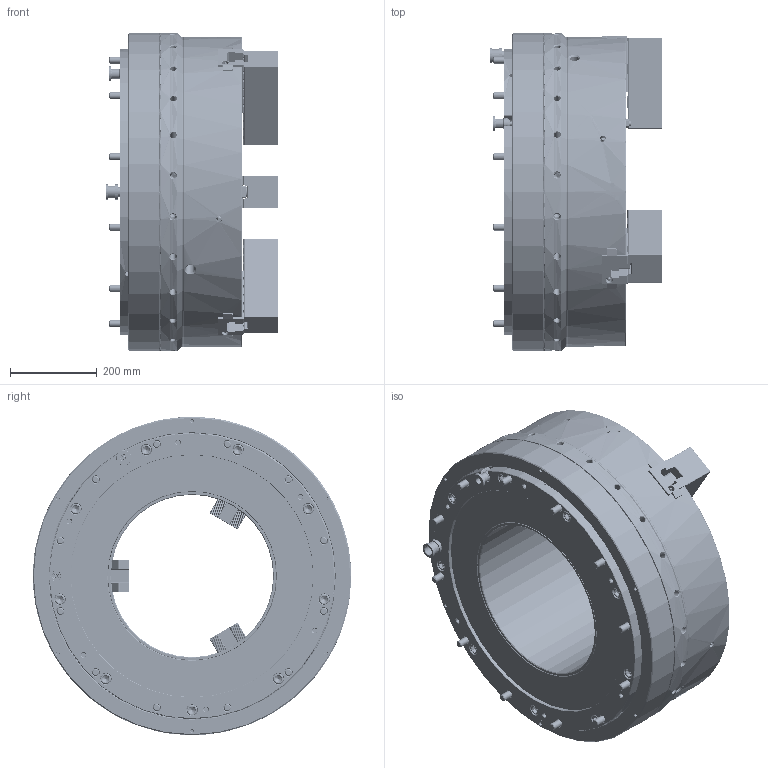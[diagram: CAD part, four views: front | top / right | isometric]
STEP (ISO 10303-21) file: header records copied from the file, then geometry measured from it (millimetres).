
FILE_DESCRIPTION (( 'STEP AP214' ), '1' );
FILE_NAME ('UPR710A375_HUL.STEP', '2025-10-15T04:16:33', ( '' ), ( '' ), 'SwSTEP 2.0', 'SolidWorks 2022', '' );
FILE_SCHEMA (( 'AUTOMOTIVE_DESIGN' ));
Length unit declared in the file: millimetre
Products named in the file (5): UPR710A375_HUL; 61P446153; 0030124060; 61P858712; UPR710A375__X2_672c4f53_X0_
Assembly tree (16 placements, depth 2):
  UPR710A375_HUL
    61P858712  x3
    61P446153  x6
    0030124060  x6
    UPR710A375__X2_672c4f53_X0_
Bounding box: 397.8 x 735 x 735 mm (x, y, z)
Volume: 84491066.1 mm3; surface area: 3608122 mm2
Topology: 17 solids, 24 shells, 10166 faces, 28184 edges, 18430 vertices
Faces by surface type: plane 5491, cylinder 2535, bspline 1179, cone 961
Entity records: 312609 total; most frequent: CARTESIAN_POINT 109588, ORIENTED_EDGE 43816, DIRECTION 32972, EDGE_CURVE 21908, VERTEX_POINT 14369, VECTOR 14308, LINE 14308, AXIS2_PLACEMENT_3D 9332
